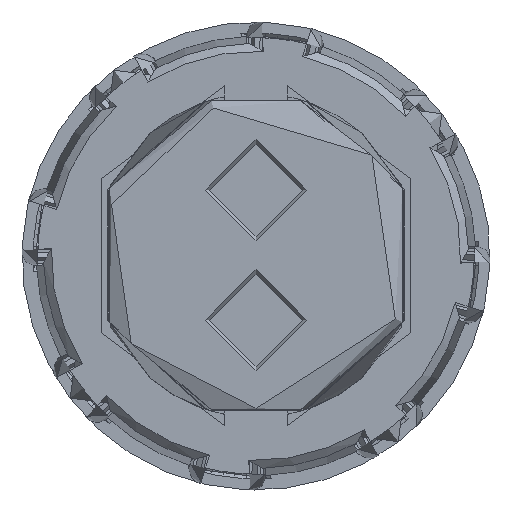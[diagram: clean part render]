
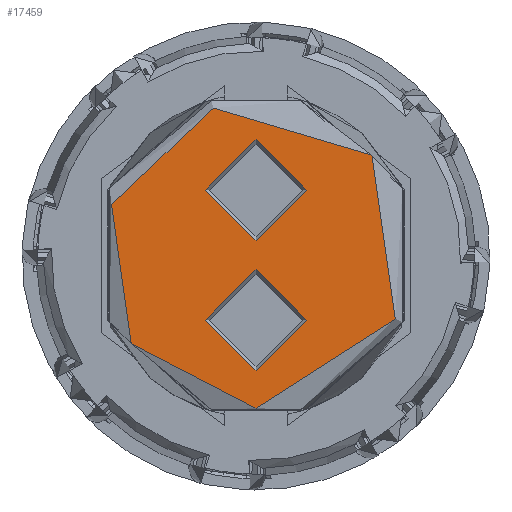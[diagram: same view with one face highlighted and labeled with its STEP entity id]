
A CAD part, top view. The second image highlights one B-rep face of the part: STEP entity #17459.
In plain terms, the highlighted planar face has unit normal (0, 0, 1).
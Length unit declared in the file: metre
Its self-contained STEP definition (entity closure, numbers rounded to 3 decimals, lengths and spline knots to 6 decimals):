
#17350=CARTESIAN_POINT('',(0.,-0.0041,0.0407));
#17351=DIRECTION('',(0.,0.,-1.));
#17352=DIRECTION('',(0.,-1.,0.));
#17353=AXIS2_PLACEMENT_3D('',#17350,#17351,#17352);
#17354=CIRCLE('',#17353,0.0032);
#17355=CARTESIAN_POINT('',(0.,-0.0009,0.0407));
#17356=VERTEX_POINT('',#17355);
#17357=EDGE_CURVE('',#17356,#17356,#17354,.T.);
#17414=CARTESIAN_POINT('',(0.,0.0041,0.0407));
#17415=DIRECTION('',(0.,0.,-1.));
#17416=DIRECTION('',(0.,1.,0.));
#17417=AXIS2_PLACEMENT_3D('',#17414,#17415,#17416);
#17418=CIRCLE('',#17417,0.0032);
#17419=CARTESIAN_POINT('',(0.,0.0009,0.0407));
#17420=VERTEX_POINT('',#17419);
#17421=EDGE_CURVE('',#17420,#17420,#17418,.T.);
#17437=CARTESIAN_POINT('',(0.,0.,0.0407));
#17438=DIRECTION('',(0.,0.,-1.));
#17439=DIRECTION('',(0.,1.,0.));
#17440=AXIS2_PLACEMENT_3D('',#17437,#17438,#17439);
#17441=PLANE('',#17440);
#17442=CARTESIAN_POINT('',(0.,0.,0.0407));
#17443=DIRECTION('',(0.,0.,-1.));
#17444=DIRECTION('',(0.,1.,0.));
#17445=AXIS2_PLACEMENT_3D('',#17442,#17443,#17444);
#17446=CIRCLE('',#17445,0.00965);
#17447=CARTESIAN_POINT('',(0.,-0.00965,0.0407));
#17448=VERTEX_POINT('',#17447);
#17449=EDGE_CURVE('',#17448,#17448,#17446,.T.);
#17450=ORIENTED_EDGE('',*,*,#17449,.F.);
#17451=EDGE_LOOP('',(#17450));
#17452=FACE_BOUND('',#17451,.T.);
#17453=ORIENTED_EDGE('',*,*,#17421,.T.);
#17454=EDGE_LOOP('',(#17453));
#17455=FACE_BOUND('',#17454,.T.);
#17456=ORIENTED_EDGE('',*,*,#17357,.T.);
#17457=EDGE_LOOP('',(#17456));
#17458=FACE_BOUND('',#17457,.T.);
#17459=ADVANCED_FACE('',(#17452,#17455,#17458),#17441,.F.);
